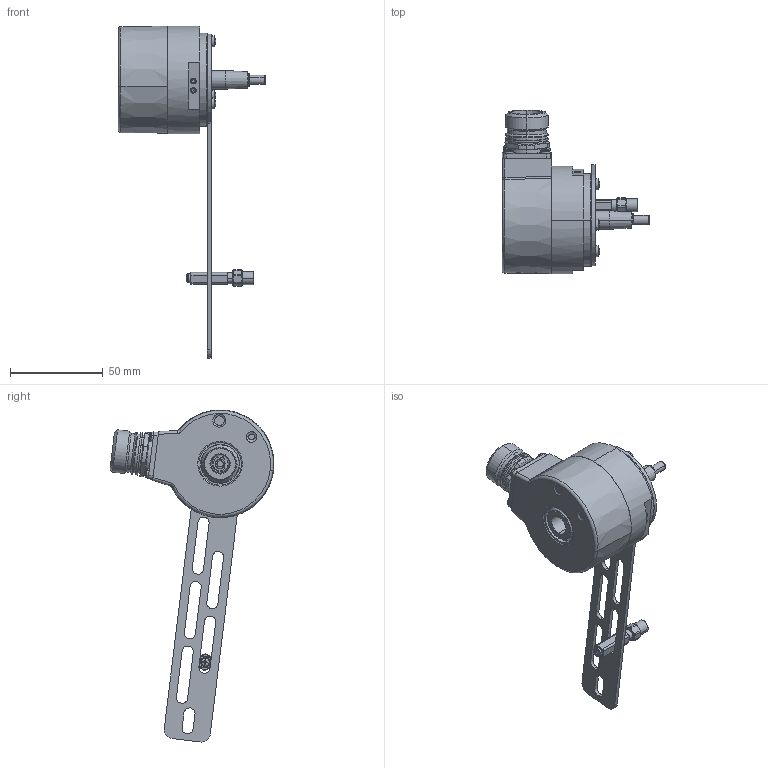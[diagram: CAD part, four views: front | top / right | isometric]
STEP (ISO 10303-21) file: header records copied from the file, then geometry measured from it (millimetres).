
FILE_DESCRIPTION (( 'STEP AP214' ), '1' );
FILE_NAME ('5834SIL.AKX4.XXXX.STEP', '2010-08-13T08:32:58', ( 'admin' ), ( 'Fritz Kübler GmbH' ), 'SwSTEP 2.0', 'SolidWorks 2009', '' );
FILE_SCHEMA (( 'AUTOMOTIVE_DESIGN' ));
Length unit declared in the file: millimetre
Products named in the file (1): 5834SIL.AKX4.XXXX
Bounding box: 79.5 x 88.28 x 178.83 mm (x, y, z)
Surface area: 34661.2 mm2 (no closed solid volume)
Topology: 0 solids, 41 shells, 457 faces, 1251 edges, 824 vertices
Faces by surface type: cylinder 185, plane 158, cone 54, sphere 30, torus 26, bspline 4
Entity records: 20161 total; most frequent: CARTESIAN_POINT 3151, DIRECTION 2797, ORIENTED_EDGE 2184, EDGE_CURVE 1237, AXIS2_PLACEMENT_3D 1144, VERTEX_POINT 824, CIRCLE 690, EDGE_LOOP 537
